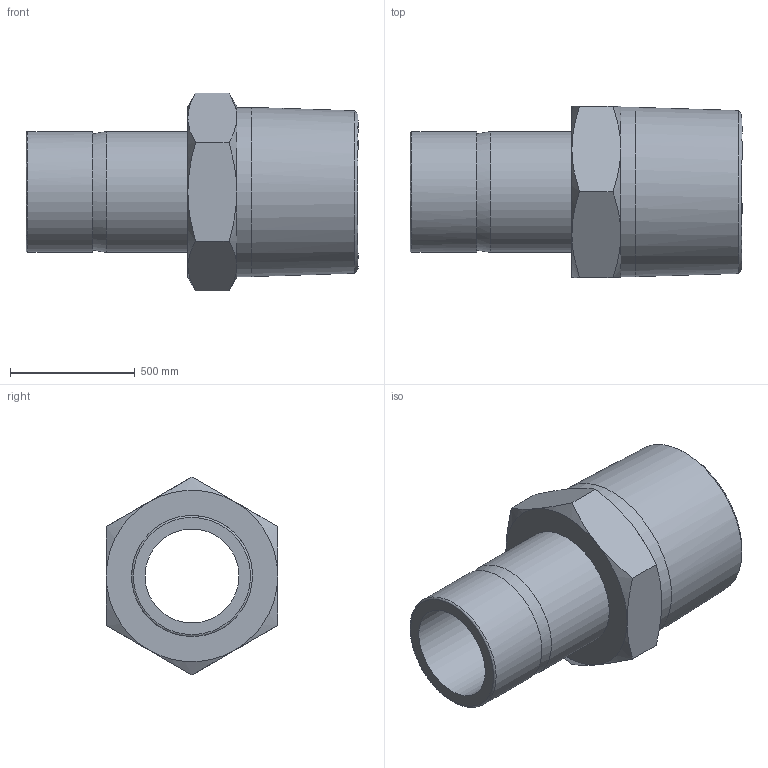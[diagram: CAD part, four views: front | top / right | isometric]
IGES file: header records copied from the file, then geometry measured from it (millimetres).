
Global section: file name: SMA-12-12N; native system: Autodesk Inventor 2016; preprocessor: unknown; author: DESIGNPC2; date: 20151221.105116; units: millimetre
Bounding box: 1328.42 x 685.8 x 791.89 mm (x, y, z)
Volume: 218810692.7 mm3; surface area: 4541909.9 mm2
Topology: 1 solids, 1 shells, 32 faces, 78 edges, 51 vertices
Faces by surface type: bspline 32
